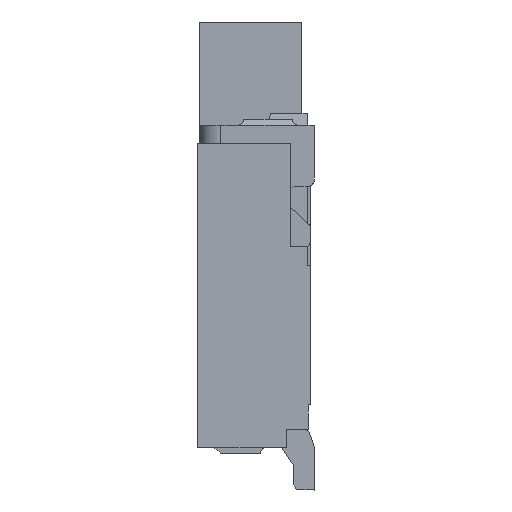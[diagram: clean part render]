
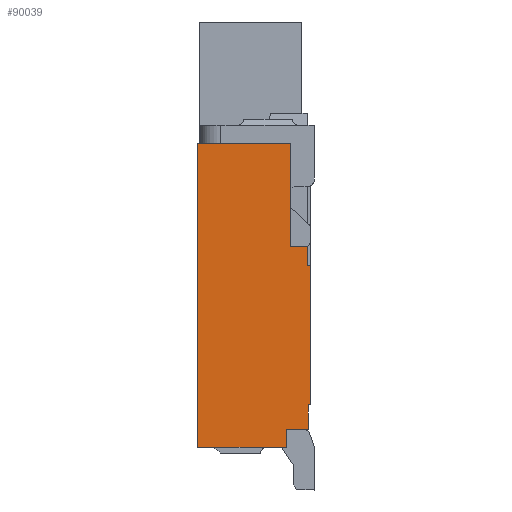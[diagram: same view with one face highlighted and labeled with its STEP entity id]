
A CAD part, left-side view. The second image highlights one B-rep face of the part: STEP entity #90039.
In plain terms, the highlighted planar face has unit normal (-1, 0, 0).
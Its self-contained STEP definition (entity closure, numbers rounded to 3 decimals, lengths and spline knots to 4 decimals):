
#367=DIRECTION('',(0.,0.,-1.));
#368=VECTOR('',#367,2.5);
#369=CARTESIAN_POINT('',(-9.435,0.96,-1.));
#370=LINE('',#369,#368);
#1512=DIRECTION('',(0.,0.,1.));
#1513=VECTOR('',#1512,1.15);
#1514=CARTESIAN_POINT('',(-9.435,0.03,-3.15));
#1515=LINE('',#1514,#1513);
#1548=DIRECTION('',(0.,-1.,0.));
#1549=VECTOR('',#1548,0.02);
#1550=CARTESIAN_POINT('',(-9.435,0.05,-3.15));
#1551=LINE('',#1550,#1549);
#25928=DIRECTION('',(0.,0.,-1.));
#25929=VECTOR('',#25928,0.2);
#25930=CARTESIAN_POINT('',(-9.435,0.05,-3.15));
#25931=LINE('',#25930,#25929);
#25932=DIRECTION('',(0.,1.,0.));
#25933=VECTOR('',#25932,0.18);
#25934=CARTESIAN_POINT('',(-9.435,0.05,-3.35));
#25935=LINE('',#25934,#25933);
#25941=DIRECTION('',(0.,0.,1.));
#25942=VECTOR('',#25941,0.15);
#25943=CARTESIAN_POINT('',(-9.435,0.06,-2.));
#25944=LINE('',#25943,#25942);
#25981=DIRECTION('',(0.,1.,0.));
#25982=VECTOR('',#25981,0.14);
#25983=CARTESIAN_POINT('',(-9.435,0.06,-1.85));
#25984=LINE('',#25983,#25982);
#26113=DIRECTION('',(0.,0.,1.));
#26114=VECTOR('',#26113,0.85);
#26115=CARTESIAN_POINT('',(-9.435,0.2,-1.85));
#26116=LINE('',#26115,#26114);
#26125=DIRECTION('',(0.,1.,0.));
#26126=VECTOR('',#26125,0.76);
#26127=CARTESIAN_POINT('',(-9.435,0.2,-1.));
#26128=LINE('',#26127,#26126);
#35591=DIRECTION('',(0.,-1.,0.));
#35592=VECTOR('',#35591,0.73);
#35593=CARTESIAN_POINT('',(-9.435,0.96,-3.5));
#35594=LINE('',#35593,#35592);
#35615=DIRECTION('',(0.,0.,1.));
#35616=VECTOR('',#35615,0.15);
#35617=CARTESIAN_POINT('',(-9.435,0.23,-3.5));
#35618=LINE('',#35617,#35616);
#42803=DIRECTION('',(0.,1.,0.));
#42804=VECTOR('',#42803,0.03);
#42805=CARTESIAN_POINT('',(-9.435,0.03,-2.));
#42806=LINE('',#42805,#42804);
#50508=CARTESIAN_POINT('',(-9.435,0.03,-3.15));
#50509=CARTESIAN_POINT('',(-9.435,0.03,-2.));
#50510=VERTEX_POINT('',#50508);
#50511=VERTEX_POINT('',#50509);
#50512=CARTESIAN_POINT('',(-9.435,0.05,-3.15));
#50513=CARTESIAN_POINT('',(-9.435,0.05,-3.35));
#50514=VERTEX_POINT('',#50512);
#50515=VERTEX_POINT('',#50513);
#50516=CARTESIAN_POINT('',(-9.435,0.23,-3.35));
#50517=VERTEX_POINT('',#50516);
#50522=CARTESIAN_POINT('',(-9.435,0.06,-2.));
#50523=CARTESIAN_POINT('',(-9.435,0.06,-1.85));
#50524=VERTEX_POINT('',#50522);
#50525=VERTEX_POINT('',#50523);
#50546=CARTESIAN_POINT('',(-9.435,0.2,-1.85));
#50547=VERTEX_POINT('',#50546);
#50616=CARTESIAN_POINT('',(-9.435,0.2,-1.));
#50617=VERTEX_POINT('',#50616);
#50620=CARTESIAN_POINT('',(-9.435,0.96,-1.));
#50621=VERTEX_POINT('',#50620);
#50630=CARTESIAN_POINT('',(-9.435,0.96,-3.5));
#50631=VERTEX_POINT('',#50630);
#55441=CARTESIAN_POINT('',(-9.435,0.23,-3.5));
#55442=VERTEX_POINT('',#55441);
#90013=CARTESIAN_POINT('',(-9.435,0.495,-2.25));
#90014=DIRECTION('',(1.,0.,0.));
#90015=DIRECTION('',(0.,0.,1.));
#90016=AXIS2_PLACEMENT_3D('',#90013,#90014,#90015);
#90017=PLANE('',#90016);
#90019=ORIENTED_EDGE('',*,*,#90018,.F.);
#90021=ORIENTED_EDGE('',*,*,#90020,.F.);
#90022=ORIENTED_EDGE('',*,*,#59285,.F.);
#90023=ORIENTED_EDGE('',*,*,#59341,.F.);
#90024=ORIENTED_EDGE('',*,*,#89983,.T.);
#90025=ORIENTED_EDGE('',*,*,#56352,.T.);
#90027=ORIENTED_EDGE('',*,*,#90026,.F.);
#90029=ORIENTED_EDGE('',*,*,#90028,.F.);
#90030=ORIENTED_EDGE('',*,*,#56997,.F.);
#90032=ORIENTED_EDGE('',*,*,#90031,.F.);
#90034=ORIENTED_EDGE('',*,*,#90033,.F.);
#90036=ORIENTED_EDGE('',*,*,#90035,.F.);
#90037=EDGE_LOOP('',(#90019,#90021,#90022,#90023,#90024,#90025,#90027,#90029,
#90030,#90032,#90034,#90036));
#90038=FACE_OUTER_BOUND('',#90037,.F.);
#56352=EDGE_CURVE('',#50515,#50517,#25935,.T.);
#56997=EDGE_CURVE('',#50621,#50631,#370,.T.);
#59285=EDGE_CURVE('',#50510,#50511,#1515,.T.);
#59341=EDGE_CURVE('',#50514,#50510,#1551,.T.);
#89983=EDGE_CURVE('',#50514,#50515,#25931,.T.);
#90018=EDGE_CURVE('',#50524,#50525,#25944,.T.);
#90020=EDGE_CURVE('',#50511,#50524,#42806,.T.);
#90026=EDGE_CURVE('',#55442,#50517,#35618,.T.);
#90028=EDGE_CURVE('',#50631,#55442,#35594,.T.);
#90031=EDGE_CURVE('',#50617,#50621,#26128,.T.);
#90033=EDGE_CURVE('',#50547,#50617,#26116,.T.);
#90035=EDGE_CURVE('',#50525,#50547,#25984,.T.);
#90039=ADVANCED_FACE('',(#90038),#90017,.F.);
